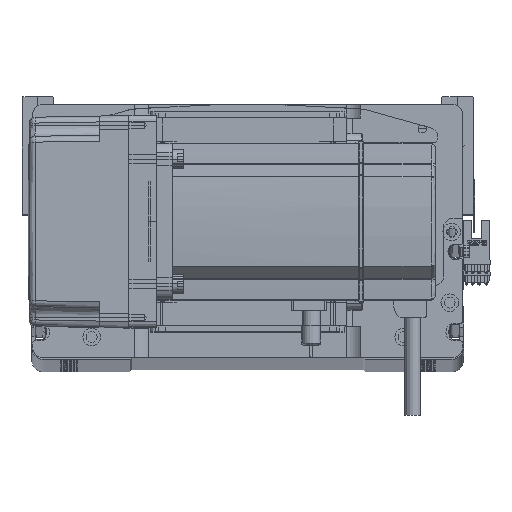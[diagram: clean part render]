
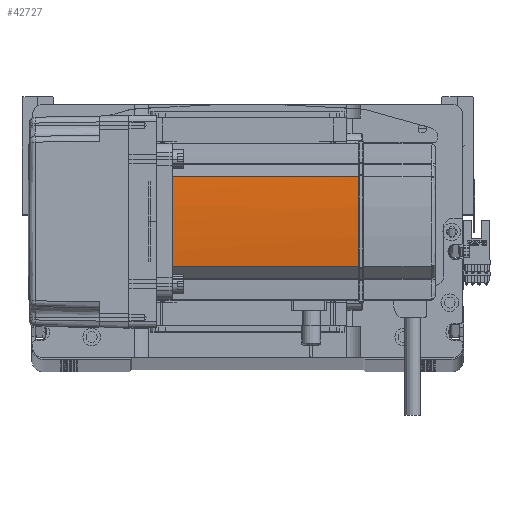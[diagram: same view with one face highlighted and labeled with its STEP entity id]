
A CAD part, top view. The second image highlights one B-rep face of the part: STEP entity #42727.
In plain terms, the highlighted cylindrical face has radius 270 mm (diameter 540 mm), a partial arc.
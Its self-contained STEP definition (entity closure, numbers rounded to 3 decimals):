
#664 = CARTESIAN_POINT ( 'NONE',  ( -230., 0., 134. ) ) ;
#1159 = DIRECTION ( 'NONE',  ( 0., 0., -1. ) ) ;
#1503 = CARTESIAN_POINT ( 'NONE',  ( -230., 0., 134. ) ) ;
#2334 = ORIENTED_EDGE ( 'NONE', *, *, #58045, .T. ) ;
#3423 = DIRECTION ( 'NONE',  ( 0., 0., 1. ) ) ;
#4546 = CARTESIAN_POINT ( 'NONE',  ( 40., -0.127, 134. ) ) ;
#6716 = ORIENTED_EDGE ( 'NONE', *, *, #55068, .T. ) ;
#8673 = VERTEX_POINT ( 'NONE', #4546 ) ;
#10699 = DIRECTION ( 'NONE',  ( 0., 0., -1. ) ) ;
#11380 = CIRCLE ( 'NONE', #53513, 270. ) ;
#13798 = CARTESIAN_POINT ( 'NONE',  ( 40., 0.127, 134. ) ) ;
#13932 = CARTESIAN_POINT ( 'NONE',  ( -230., 0., 39. ) ) ;
#14015 = B_SPLINE_CURVE_WITH_KNOTS ( 'NONE', 3,
 ( #51624, #28261, #46558, #22885 ),
 .UNSPECIFIED., .F., .F.,
 ( 4, 4 ),
 ( 0., 1. ),
 .UNSPECIFIED. ) ;
#15016 = VECTOR ( 'NONE', #1159, 1000. ) ;
#16227 = VECTOR ( 'NONE', #3423, 1000. ) ;
#17475 = CARTESIAN_POINT ( 'NONE',  ( -230., 0., 58. ) ) ;
#17870 = CIRCLE ( 'NONE', #55284, 270. ) ;
#18718 = DIRECTION ( 'NONE',  ( -1., 0., 0. ) ) ;
#20043 = FACE_OUTER_BOUND ( 'NONE', #48149, .T. ) ;
#20745 = CIRCLE ( 'NONE', #38964, 270. ) ;
#21287 = CARTESIAN_POINT ( 'NONE',  ( 39.042, -22.724, 39. ) ) ;
#22180 = CARTESIAN_POINT ( 'NONE',  ( 39.042, -22.724, 134. ) ) ;
#22358 = CARTESIAN_POINT ( 'NONE',  ( 39.042, 22.724, 39. ) ) ;
#22872 = LINE ( 'NONE', #36558, #16227 ) ;
#22885 = CARTESIAN_POINT ( 'NONE',  ( 40., 0.127, 134. ) ) ;
#23362 = ORIENTED_EDGE ( 'NONE', *, *, #51497, .T. ) ;
#23939 = LINE ( 'NONE', #48613, #15016 ) ;
#25645 = ORIENTED_EDGE ( 'NONE', *, *, #35150, .F. ) ;
#28261 = CARTESIAN_POINT ( 'NONE',  ( 40., -0.042, 134. ) ) ;
#29913 = DIRECTION ( 'NONE',  ( -1., 0., 0. ) ) ;
#32520 = DIRECTION ( 'NONE',  ( 0., 0., -1. ) ) ;
#33166 = DIRECTION ( 'NONE',  ( 0., 0., -1. ) ) ;
#35150 = EDGE_CURVE ( 'NONE', #47618, #35855, #17870, .T. ) ;
#35855 = VERTEX_POINT ( 'NONE', #21287 ) ;
#36558 = CARTESIAN_POINT ( 'NONE',  ( 39.042, 22.724, 58. ) ) ;
#36586 = AXIS2_PLACEMENT_3D ( 'NONE', #17475, #55072, #46906 ) ;
#37932 = DIRECTION ( 'NONE',  ( -1., 0., 0. ) ) ;
#38709 = VERTEX_POINT ( 'NONE', #22180 ) ;
#38964 = AXIS2_PLACEMENT_3D ( 'NONE', #664, #33166, #37932 ) ;
#40501 = EDGE_CURVE ( 'NONE', #38709, #35855, #23939, .T. ) ;
#42727 = ADVANCED_FACE ( 'NONE', ( #20043 ), #53802, .T. ) ;
#43119 = EDGE_CURVE ( 'NONE', #8673, #60421, #14015, .T. ) ;
#46558 = CARTESIAN_POINT ( 'NONE',  ( 40., 0.042, 134. ) ) ;
#46864 = CARTESIAN_POINT ( 'NONE',  ( 39.042, 22.724, 134. ) ) ;
#46906 = DIRECTION ( 'NONE',  ( -1., 0., 0. ) ) ;
#47618 = VERTEX_POINT ( 'NONE', #22358 ) ;
#48092 = ORIENTED_EDGE ( 'NONE', *, *, #40501, .T. ) ;
#48149 = EDGE_LOOP ( 'NONE', ( #48092, #25645, #6716, #23362, #58504, #2334 ) ) ;
#48613 = CARTESIAN_POINT ( 'NONE',  ( 39.042, -22.724, 58. ) ) ;
#51497 = EDGE_CURVE ( 'NONE', #59043, #60421, #20745, .T. ) ;
#51624 = CARTESIAN_POINT ( 'NONE',  ( 40., -0.127, 134. ) ) ;
#53513 = AXIS2_PLACEMENT_3D ( 'NONE', #1503, #10699, #29913 ) ;
#53802 = CYLINDRICAL_SURFACE ( 'NONE', #36586, 270. ) ;
#55068 = EDGE_CURVE ( 'NONE', #47618, #59043, #22872, .T. ) ;
#55072 = DIRECTION ( 'NONE',  ( 0., 0., -1. ) ) ;
#55284 = AXIS2_PLACEMENT_3D ( 'NONE', #13932, #32520, #18718 ) ;
#58045 = EDGE_CURVE ( 'NONE', #8673, #38709, #11380, .T. ) ;
#58504 = ORIENTED_EDGE ( 'NONE', *, *, #43119, .F. ) ;
#59043 = VERTEX_POINT ( 'NONE', #46864 ) ;
#60421 = VERTEX_POINT ( 'NONE', #13798 ) ;
